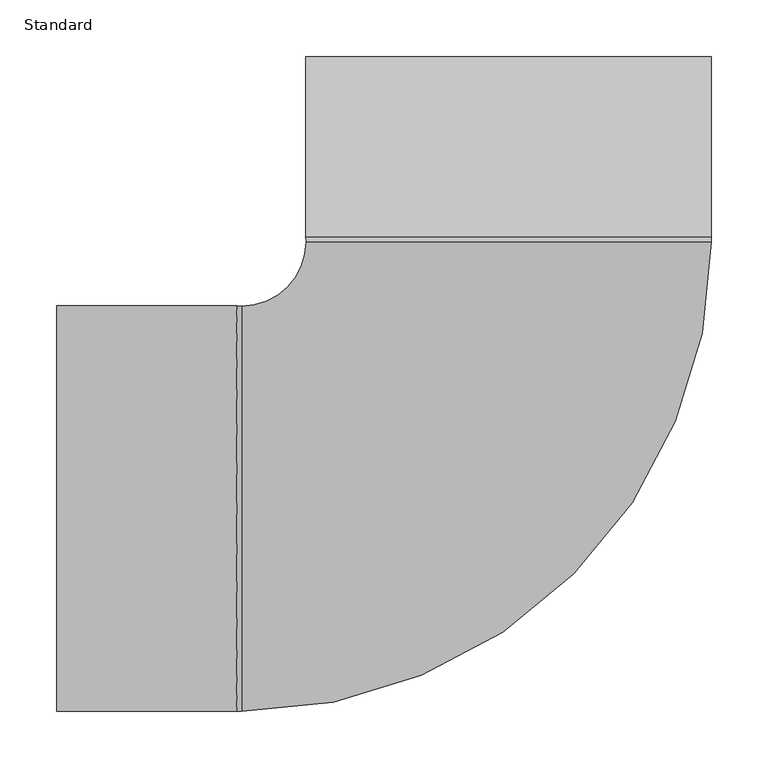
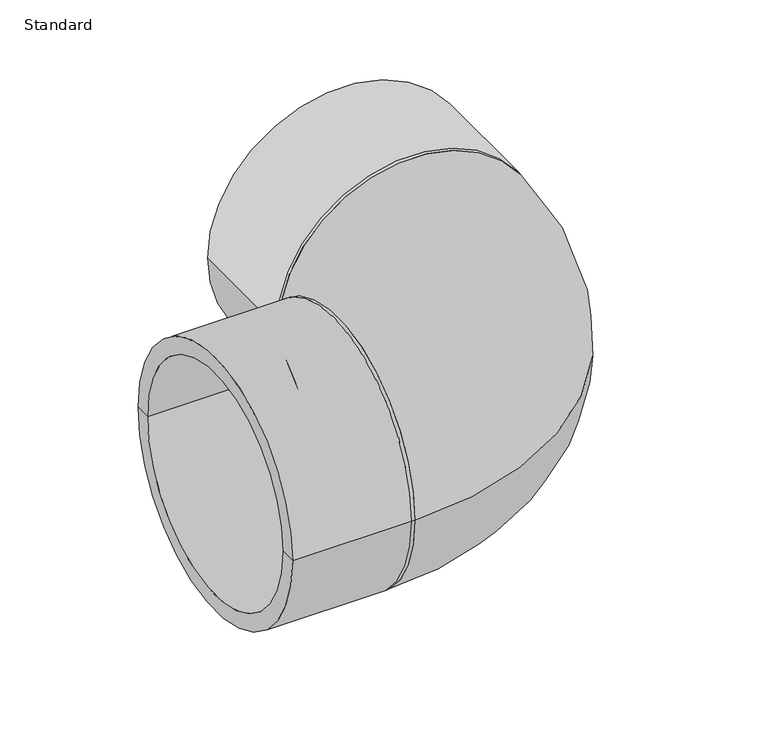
"""IFC4 building model written with IfcOpenShell, lengths in millimetres: pipe fitting geometry, Durapipe_PipeFitting_PVC_Elbow90deg_225To315 : Standard."""

from ifc_helpers import new_model, si_unit, point, frame, origin, place, context, project, spatial, polyline, circle_curve, ellipse_curve, trimmed, source, transform, mapped, element, save
from ifc_brep_helpers import plane_surface, cylinder_surface, revolved_surface, advanced_brep


def standard_8b6c582c(model_context):
    return source(origin(), model_context, "Body", "AdvancedBrep", [
        advanced_brep(
        [(179.5, 240.5, 0.0), (-179.5, 240.5, 0.0), (-179.5, 400.0, 0.0), (179.5, 400.0, 0.0), (179.2, 236.0, 0.0), (-179.2, 236.0, 0.0), (-157.5, 400.0, 0.0), (157.5, 400.0, 0.0), (157.5, 240.5, 0.0), (-157.5, 240.5, 0.0), (0.0, 240.5, 0.0), (0.0, 236.0, 0.0)],
        [
            (0, 1, circle_curve(frame((0.0, 240.5, 0.0), z_axis=(0.0, 1.0, 0.0), x_axis=(-1.0, 0.0, 0.0)), 179.5)),
            (1, 2),
            (2, 3, circle_curve(frame((0.0, 400.0, 0.0), z_axis=(0.0, -1.0, 0.0), x_axis=(-1.0, 0.0, 0.0)), 179.5)),
            (3, 0),
            (1, 0, circle_curve(frame((0.0, 240.5, 0.0), z_axis=(0.0, 1.0, 0.0), x_axis=(-1.0, 0.0, 0.0)), 179.5)),
            (3, 2, circle_curve(frame((0.0, 400.0, 0.0), z_axis=(0.0, -1.0, 0.0), x_axis=(-1.0, 0.0, 0.0)), 179.5)),
            (0, 4),
            (4, 5, circle_curve(frame((0.0, 236.0, 0.0), z_axis=(0.0, 1.0, 0.0), x_axis=(-1.0, 0.0, 0.0)), 179.2)),
            (5, 1),
            (5, 4, circle_curve(frame((0.0, 236.0, 0.0), z_axis=(0.0, 1.0, 0.0), x_axis=(-1.0, 0.0, 0.0)), 179.2)),
            (2, 6),
            (6, 7, circle_curve(frame((0.0, 400.0, 0.0), z_axis=(0.0, -1.0, 0.0), x_axis=(-1.0, 0.0, 0.0)), 157.5)),
            (7, 3),
            (7, 6, circle_curve(frame((0.0, 400.0, 0.0), z_axis=(0.0, -1.0, 0.0), x_axis=(-1.0, 0.0, 0.0)), 157.5)),
            (8, 9, circle_curve(frame((0.0, 240.5, 0.0), z_axis=(0.0, 1.0, 0.0), x_axis=(-1.0, 0.0, 0.0)), 157.5)),
            (9, 10),
            (10, 8),
            (9, 8, circle_curve(frame((0.0, 240.5, 0.0), z_axis=(0.0, 1.0, 0.0), x_axis=(-1.0, 0.0, 0.0)), 157.5)),
            (6, 9),
            (8, 7),
            (4, 11),
            (11, 5),
        ],
        [
            cylinder_surface(frame((0.0, 2343.0, 0.0), z_axis=(0.0, -1.0, 0.0), x_axis=(-1.0, 0.0, 0.0)), 179.5),
            revolved_surface(polyline([(-179.5, 240.5, 0.0), (-179.2, 236.0, 0.0)]), (0.0, 2343.0, 0.0), (0.0, -1.0, 0.0)),
            plane_surface(frame((0.0, 400.0, 0.0), z_axis=(0.0, 1.0, 0.0), x_axis=(-1.0, 0.0, 0.0))),
            plane_surface(frame((0.0, 240.5, 0.0), z_axis=(0.0, 1.0, 0.0), x_axis=(-1.0, 0.0, 0.0))),
            revolved_surface(polyline([(-157.5, 240.5, 0.0), (-157.5, 400.0, 0.0)]), (0.0, 2343.0, 0.0), (0.0, -1.0, 0.0)),
            plane_surface(frame((0.0, 236.0, 0.0), z_axis=(0.0, -1.0, 0.0), x_axis=(-1.0, 0.0, 0.0))),
        ],
        [
            (0, [[1, 2, 3, 4]]),
            (0, [[-2, 5, -4, 6]]),
            (1, [[-1, 7, 8, 9]]),
            (1, [[-5, -9, 10, -7]]),
            (2, [[-3, 11, 12, 13]]),
            (2, [[-6, -13, 14, -11]]),
            (3, [[15, 16, 17]]),
            (3, [[-16, 18, -17]]),
            (4, [[-12, 19, -15, 20]]),
            (4, [[-14, -20, -18, -19]]),
            (5, [[-8, 21, 22]]),
            (5, [[-10, -22, -21]]),
        ],
    ),
        advanced_brep(
        [(-400.0, -157.5, 0.0), (-400.0, 157.5, 0.0), (-400.0, 179.5, 0.0), (-400.0, -179.5, 0.0), (-236.0, 179.2, 0.0), (-236.0, -179.2, 0.0), (-240.5, -179.5, 0.0), (-240.5, 179.5, 0.0), (-240.5, -157.5, 0.0), (-240.5, 157.5, 0.0), (-240.5, 0.0, 0.0), (-236.0, 0.0, 0.0)],
        [
            (0, 1, circle_curve(frame((-400.0, 0.0, 0.0), z_axis=(1.0, 0.0, 0.0), x_axis=(0.0, 1.0, 0.0)), 157.5)),
            (1, 2),
            (2, 3, circle_curve(frame((-400.0, 0.0, 0.0), z_axis=(-1.0, 0.0, 0.0), x_axis=(0.0, 1.0, 0.0)), 179.5)),
            (3, 0),
            (1, 0, circle_curve(frame((-400.0, 0.0, 0.0), z_axis=(1.0, 0.0, 0.0), x_axis=(0.0, 1.0, 0.0)), 157.5)),
            (3, 2, circle_curve(frame((-400.0, 0.0, 0.0), z_axis=(-1.0, 0.0, 0.0), x_axis=(0.0, 1.0, 0.0)), 179.5)),
            (4, 5, circle_curve(frame((-236.0, 0.0, 0.0), z_axis=(-1.0, 0.0, 0.0), x_axis=(0.0, 1.0, 0.0)), 179.2)),
            (5, 6),
            (6, 7, circle_curve(frame((-240.5, 0.0, 0.0), z_axis=(1.0, 0.0, 0.0), x_axis=(0.0, 1.0, 0.0)), 179.5)),
            (7, 4),
            (5, 4, circle_curve(frame((-236.0, 0.0, 0.0), z_axis=(-1.0, 0.0, 0.0), x_axis=(0.0, 1.0, 0.0)), 179.2)),
            (7, 6, circle_curve(frame((-240.5, 0.0, 0.0), z_axis=(1.0, 0.0, 0.0), x_axis=(0.0, 1.0, 0.0)), 179.5)),
            (2, 7),
            (6, 3),
            (0, 8),
            (8, 9, circle_curve(frame((-240.5, 0.0, 0.0), z_axis=(1.0, 0.0, 0.0), x_axis=(0.0, 1.0, 0.0)), 157.5)),
            (9, 1),
            (9, 8, circle_curve(frame((-240.5, 0.0, 0.0), z_axis=(1.0, 0.0, 0.0), x_axis=(0.0, 1.0, 0.0)), 157.5)),
            (8, 10),
            (10, 9),
            (4, 11),
            (11, 5),
        ],
        [
            plane_surface(frame((-400.0, 0.0, 0.0), z_axis=(-1.0, 0.0, 0.0), x_axis=(0.0, 1.0, 0.0))),
            revolved_surface(polyline([(-236.0, 179.2, 0.0), (-240.5, 179.5, 0.0)]), (2166.5, 0.0, 0.0), (-1.0, 0.0, 0.0)),
            cylinder_surface(frame((2166.5, 0.0, 0.0), z_axis=(-1.0, 0.0, 0.0), x_axis=(0.0, 1.0, 0.0)), 179.5),
            revolved_surface(polyline([(-400.0, 157.5, 0.0), (-240.5, 157.5, 0.0)]), (2166.5, 0.0, 0.0), (-1.0, 0.0, 0.0)),
            plane_surface(frame((-240.5, 0.0, 0.0), z_axis=(-1.0, 0.0, 0.0), x_axis=(0.0, 1.0, 0.0))),
            plane_surface(frame((-236.0, 0.0, 0.0), z_axis=(1.0, 0.0, 0.0), x_axis=(0.0, 1.0, 0.0))),
        ],
        [
            (0, [[1, 2, 3, 4]]),
            (0, [[-2, 5, -4, 6]]),
            (1, [[7, 8, 9, 10]]),
            (1, [[11, -10, 12, -8]]),
            (2, [[-3, 13, -9, 14]]),
            (2, [[-6, -14, -12, -13]]),
            (3, [[-1, 15, 16, 17]]),
            (3, [[-5, -17, 18, -15]]),
            (4, [[-16, 19, 20]]),
            (4, [[-18, -20, -19]]),
            (5, [[-7, 21, 22]]),
            (5, [[-21, -11, -22]]),
        ],
    ),
        advanced_brep(
        [(-179.2, 236.0, 0.0), (-236.0, 179.2, 0.0), (-236.0, -179.2, 0.0), (179.2, 236.0, 0.0)],
        [
            (0, 1, circle_curve(frame((-236.0, 236.0, 0.0), z_axis=(0.0, 0.0, -1.0), x_axis=(0.0, -1.0, 0.0)), 56.8)),
            (1, 2, circle_curve(frame((-236.0, 0.0, 0.0), z_axis=(1.0, 0.0, 0.0), x_axis=(0.0, 1.0, 0.0)), 179.2)),
            (2, 3, circle_curve(frame((-236.0, 236.0, 0.0), z_axis=(0.0, 0.0, 1.0), x_axis=(0.0, -1.0, 0.0)), 415.2)),
            (3, 0, circle_curve(frame((0.0, 236.0, 0.0), z_axis=(0.0, -1.0, 0.0), x_axis=(-1.0, 0.0, 0.0)), 179.2)),
            (2, 1, circle_curve(frame((-236.0, 0.0, 0.0), z_axis=(1.0, 0.0, 0.0), x_axis=(0.0, 1.0, 0.0)), 179.2)),
            (0, 3, circle_curve(frame((0.0, 236.0, 0.0), z_axis=(0.0, -1.0, 0.0), x_axis=(-1.0, 0.0, 0.0)), 179.2)),
        ],
        [
            revolved_surface(trimmed(ellipse_curve(frame((-236.0, 0.0, 0.0), z_axis=(-1.0, 0.0, 0.0), x_axis=(0.0, 1.0, 0.0)), 179.2, 179.2), [point((-236.0, -179.2, 0.0))], [point((-236.0, 179.2, 0.0))], True, "CARTESIAN"), (-236.0, 236.0, 0.0), (0.0, 0.0, 1.0)),
            revolved_surface(trimmed(ellipse_curve(frame((-236.0, 0.0, 0.0), z_axis=(-1.0, 0.0, 0.0), x_axis=(0.0, 1.0, 0.0)), 179.2, 179.2), [point((-236.0, 179.2, 0.0))], [point((-236.0, -179.2, 0.0))], True, "CARTESIAN"), (-236.0, 236.0, 0.0), (0.0, 0.0, 1.0)),
            plane_surface(frame((-236.0, 0.0, 0.0), z_axis=(-1.0, 0.0, 0.0), x_axis=(0.0, 0.0, 1.0))),
            plane_surface(frame((0.0, 236.0, 0.0), z_axis=(0.0, 1.0, 0.0), x_axis=(0.0, 0.0, 1.0))),
        ],
        [
            (0, [[1, 2, 3, 4]]),
            (1, [[-3, 5, -1, 6]]),
            (2, [[-2, -5]]),
            (3, [[-6, -4]]),
        ],
    ),
    ])


if __name__ == "__main__":
    model = new_model("IFC4")
    model_context = context("Model", 3, world=origin())
    ifc_project = project(units=[si_unit("LENGTHUNIT", "METRE", prefix="MILLI")], contexts=[model_context])
    site = spatial("IfcSite", under=ifc_project)
    building = spatial("IfcBuilding", under=site)
    placement = place(None, origin())
    standard_shape = standard_8b6c582c(model_context)
    element("IfcPipeFitting", 1, ObjectType="Durapipe_PipeFitting_PVC_Elbow90deg_225To315 : Standard", at=placement, inside=building, context=model_context, shape_type="MappedRepresentation", body=[
        mapped(standard_shape, transform((0.0, 0.0, 0.0), x_axis=(1.0, 0.0, 0.0), y_axis=(0.0, 1.0, 0.0), z_axis=(0.0, 0.0, 1.0))),
    ])
    save(model, "model.ifc")
